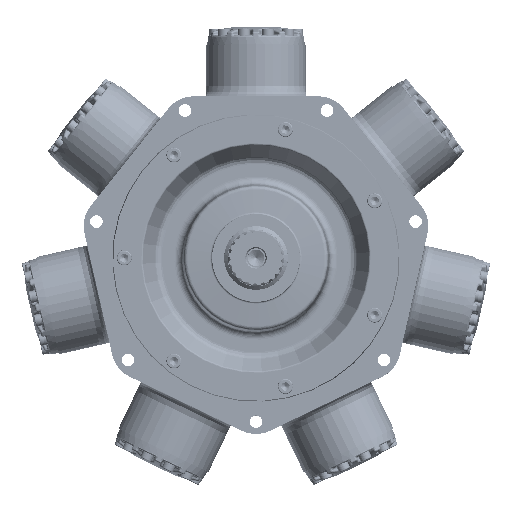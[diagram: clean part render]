
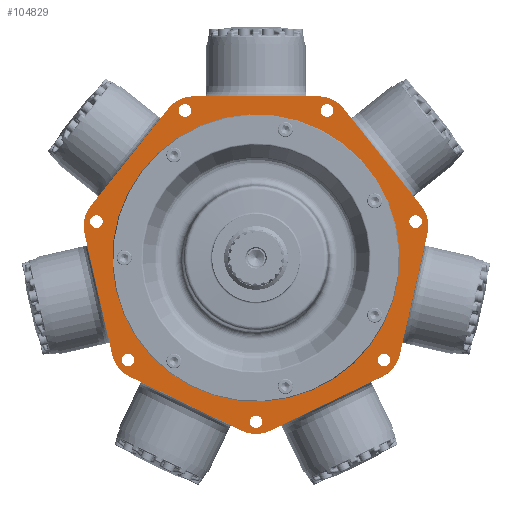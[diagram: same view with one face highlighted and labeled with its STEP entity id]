
A CAD part, top view. The second image highlights one B-rep face of the part: STEP entity #104829.
In plain terms, the highlighted planar face has unit normal (0, 0, 1).
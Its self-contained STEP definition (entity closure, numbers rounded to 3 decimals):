
#2284=FACE_BOUND('',#27616,.T.);
#2285=FACE_BOUND('',#27617,.T.);
#2286=FACE_BOUND('',#27618,.T.);
#2287=FACE_BOUND('',#27619,.T.);
#2288=FACE_BOUND('',#27620,.T.);
#2289=FACE_BOUND('',#27621,.T.);
#2290=FACE_BOUND('',#27622,.T.);
#2291=FACE_BOUND('',#27623,.T.);
#3979=PLANE('',#113158);
#9681=LINE('',#274230,#14378);
#9881=LINE('',#277726,#14578);
#9934=LINE('',#279212,#14631);
#9952=LINE('',#280041,#14649);
#9963=LINE('',#280065,#14660);
#9973=LINE('',#280125,#14670);
#9982=LINE('',#280160,#14679);
#14378=VECTOR('',#133171,10.);
#14578=VECTOR('',#133829,10.);
#14631=VECTOR('',#134124,10.);
#14649=VECTOR('',#134242,10.);
#14660=VECTOR('',#134261,10.);
#14670=VECTOR('',#134305,10.);
#14679=VECTOR('',#134326,10.);
#21075=FACE_OUTER_BOUND('',#27615,.T.);
#27615=EDGE_LOOP('',(#89969,#89970,#89971,#89972,#89973,#89974,#89975,#89976,
#89977,#89978,#89979,#89980,#89981,#89982));
#27616=EDGE_LOOP('',(#89983));
#27617=EDGE_LOOP('',(#89984));
#27618=EDGE_LOOP('',(#89985));
#27619=EDGE_LOOP('',(#89986));
#27620=EDGE_LOOP('',(#89987));
#27621=EDGE_LOOP('',(#89988));
#27622=EDGE_LOOP('',(#89989));
#27623=EDGE_LOOP('',(#89990));
#29731=CIRCLE('',#109247,228.555);
#31474=CIRCLE('',#113022,50.8);
#31489=CIRCLE('',#113044,10.);
#31491=CIRCLE('',#113047,10.);
#31493=CIRCLE('',#113050,10.);
#31495=CIRCLE('',#113053,10.);
#31497=CIRCLE('',#113056,10.);
#31499=CIRCLE('',#113059,10.);
#31501=CIRCLE('',#113062,10.);
#31506=CIRCLE('',#113072,50.8);
#31510=CIRCLE('',#113081,50.8);
#31514=CIRCLE('',#113089,50.8);
#31518=CIRCLE('',#113099,50.8);
#31525=CIRCLE('',#113115,50.8);
#31529=CIRCLE('',#113123,50.8);
#41191=VERTEX_POINT('',#213821);
#45036=VERTEX_POINT('',#274227);
#45037=VERTEX_POINT('',#274229);
#45316=VERTEX_POINT('',#277723);
#45317=VERTEX_POINT('',#277725);
#45404=VERTEX_POINT('',#279209);
#45405=VERTEX_POINT('',#279211);
#45410=VERTEX_POINT('',#279224);
#45425=VERTEX_POINT('',#279973);
#45427=VERTEX_POINT('',#279979);
#45429=VERTEX_POINT('',#279985);
#45431=VERTEX_POINT('',#279991);
#45433=VERTEX_POINT('',#279997);
#45435=VERTEX_POINT('',#280003);
#45437=VERTEX_POINT('',#280009);
#45443=VERTEX_POINT('',#280040);
#45447=VERTEX_POINT('',#280051);
#45452=VERTEX_POINT('',#280064);
#45456=VERTEX_POINT('',#280111);
#45461=VERTEX_POINT('',#280124);
#45468=VERTEX_POINT('',#280157);
#45469=VERTEX_POINT('',#280159);
#53231=EDGE_CURVE('',#41191,#41191,#29731,.T.);
#59564=EDGE_CURVE('',#45036,#45037,#9681,.T.);
#60005=EDGE_CURVE('',#45316,#45317,#9881,.T.);
#60174=EDGE_CURVE('',#45404,#45405,#9934,.T.);
#60181=EDGE_CURVE('',#45317,#45410,#31474,.T.);
#60218=EDGE_CURVE('',#45425,#45425,#31489,.T.);
#60221=EDGE_CURVE('',#45427,#45427,#31491,.T.);
#60224=EDGE_CURVE('',#45429,#45429,#31493,.T.);
#60227=EDGE_CURVE('',#45431,#45431,#31495,.T.);
#60230=EDGE_CURVE('',#45433,#45433,#31497,.T.);
#60233=EDGE_CURVE('',#45435,#45435,#31499,.T.);
#60236=EDGE_CURVE('',#45437,#45437,#31501,.T.);
#60246=EDGE_CURVE('',#45410,#45443,#9952,.T.);
#60252=EDGE_CURVE('',#45443,#45447,#31506,.T.);
#60259=EDGE_CURVE('',#45447,#45452,#9963,.T.);
#60266=EDGE_CURVE('',#45037,#45316,#31510,.T.);
#60272=EDGE_CURVE('',#45405,#45456,#31514,.T.);
#60279=EDGE_CURVE('',#45456,#45461,#9973,.T.);
#60291=EDGE_CURVE('',#45468,#45469,#9982,.T.);
#60294=EDGE_CURVE('',#45461,#45468,#31518,.T.);
#60308=EDGE_CURVE('',#45452,#45404,#31525,.T.);
#60314=EDGE_CURVE('',#45469,#45036,#31529,.T.);
#89969=ORIENTED_EDGE('',*,*,#60279,.F.);
#89970=ORIENTED_EDGE('',*,*,#60272,.F.);
#89971=ORIENTED_EDGE('',*,*,#60174,.F.);
#89972=ORIENTED_EDGE('',*,*,#60308,.F.);
#89973=ORIENTED_EDGE('',*,*,#60259,.F.);
#89974=ORIENTED_EDGE('',*,*,#60252,.F.);
#89975=ORIENTED_EDGE('',*,*,#60246,.F.);
#89976=ORIENTED_EDGE('',*,*,#60181,.F.);
#89977=ORIENTED_EDGE('',*,*,#60005,.F.);
#89978=ORIENTED_EDGE('',*,*,#60266,.F.);
#89979=ORIENTED_EDGE('',*,*,#59564,.F.);
#89980=ORIENTED_EDGE('',*,*,#60314,.F.);
#89981=ORIENTED_EDGE('',*,*,#60291,.F.);
#89982=ORIENTED_EDGE('',*,*,#60294,.F.);
#89983=ORIENTED_EDGE('',*,*,#60218,.T.);
#89984=ORIENTED_EDGE('',*,*,#60221,.T.);
#89985=ORIENTED_EDGE('',*,*,#60224,.T.);
#89986=ORIENTED_EDGE('',*,*,#60227,.T.);
#89987=ORIENTED_EDGE('',*,*,#60230,.T.);
#89988=ORIENTED_EDGE('',*,*,#60233,.T.);
#89989=ORIENTED_EDGE('',*,*,#60236,.T.);
#89990=ORIENTED_EDGE('',*,*,#53231,.F.);
#104829=ADVANCED_FACE('',(#21075,#2284,#2285,#2286,#2287,#2288,#2289,#2290,
#2291),#3979,.F.);
#109247=AXIS2_PLACEMENT_3D('',#213822,#124365,#124366);
#113022=AXIS2_PLACEMENT_3D('',#279225,#134134,#134135);
#113044=AXIS2_PLACEMENT_3D('',#279974,#134179,#134180);
#113047=AXIS2_PLACEMENT_3D('',#279980,#134186,#134187);
#113050=AXIS2_PLACEMENT_3D('',#279986,#134193,#134194);
#113053=AXIS2_PLACEMENT_3D('',#279992,#134200,#134201);
#113056=AXIS2_PLACEMENT_3D('',#279998,#134207,#134208);
#113059=AXIS2_PLACEMENT_3D('',#280004,#134214,#134215);
#113062=AXIS2_PLACEMENT_3D('',#280010,#134221,#134222);
#113072=AXIS2_PLACEMENT_3D('',#280052,#134251,#134252);
#113081=AXIS2_PLACEMENT_3D('',#280088,#134278,#134279);
#113089=AXIS2_PLACEMENT_3D('',#280112,#134295,#134296);
#113099=AXIS2_PLACEMENT_3D('',#280164,#134332,#134333);
#113115=AXIS2_PLACEMENT_3D('',#280226,#134368,#134369);
#113123=AXIS2_PLACEMENT_3D('',#280248,#134385,#134386);
#113158=AXIS2_PLACEMENT_3D('',#280289,#134458,#134459);
#124365=DIRECTION('center_axis',(0.,0.,
1.));
#124366=DIRECTION('ref_axis',(0.223,-0.975,0.));
#133171=DIRECTION('',(0.623,-0.782,0.));
#133829=DIRECTION('',(-0.223,-0.975,0.));
#134124=DIRECTION('',(-0.223,0.975,0.));
#134134=DIRECTION('center_axis',(0.,0.,-1.));
#134135=DIRECTION('ref_axis',(0.975,-0.223,0.));
#134179=DIRECTION('center_axis',(0.,0.,-1.));
#134180=DIRECTION('ref_axis',(1.,0.,0.));
#134186=DIRECTION('center_axis',(0.,0.,-1.));
#134187=DIRECTION('ref_axis',(1.,0.,0.));
#134193=DIRECTION('center_axis',(0.,0.,-1.));
#134194=DIRECTION('ref_axis',(1.,0.,0.));
#134200=DIRECTION('center_axis',(0.,0.,-1.));
#134201=DIRECTION('ref_axis',(1.,0.,0.));
#134207=DIRECTION('center_axis',(0.,0.,-1.));
#134208=DIRECTION('ref_axis',(1.,0.,0.));
#134214=DIRECTION('center_axis',(0.,0.,-1.));
#134215=DIRECTION('ref_axis',(1.,0.,0.));
#134221=DIRECTION('center_axis',(0.,0.,-1.));
#134222=DIRECTION('ref_axis',(1.,0.,0.));
#134242=DIRECTION('',(-0.901,-0.434,0.));
#134251=DIRECTION('center_axis',(0.,0.,-1.));
#134252=DIRECTION('ref_axis',(0.434,-0.901,0.));
#134261=DIRECTION('',(-0.901,0.434,0.));
#134278=DIRECTION('center_axis',(0.,0.,-1.));
#134279=DIRECTION('ref_axis',(0.782,0.623,0.));
#134295=DIRECTION('center_axis',(0.,0.,-1.));
#134296=DIRECTION('ref_axis',(-0.975,-0.223,0.));
#134305=DIRECTION('',(0.623,0.782,0.));
#134326=DIRECTION('',(1.,0.,0.));
#134332=DIRECTION('center_axis',(0.,0.,-1.));
#134333=DIRECTION('ref_axis',(-0.782,0.623,0.));
#134368=DIRECTION('center_axis',(0.,0.,-1.));
#134369=DIRECTION('ref_axis',(-0.434,-0.901,0.));
#134385=DIRECTION('center_axis',(0.,0.,-1.));
#134386=DIRECTION('ref_axis',(0.,1.,0.));
#134458=DIRECTION('center_axis',(0.,0.,-1.));
#134459=DIRECTION('ref_axis',(-1.,0.,0.));
#213821=CARTESIAN_POINT('',(222.825,50.858,-6.59));
#213822=CARTESIAN_POINT('Origin',(0.,0.,
-6.59));
#274227=CARTESIAN_POINT('',(139.102,238.048,-6.59));
#274229=CARTESIAN_POINT('',(263.033,82.644,-6.59));
#274230=CARTESIAN_POINT('',(124.931,255.818,-6.59));
#277723=CARTESIAN_POINT('',(272.842,39.666,-6.59));
#277725=CARTESIAN_POINT('',(228.612,-154.12,-6.59));
#277726=CARTESIAN_POINT('',(287.342,103.193,-6.59));
#279209=CARTESIAN_POINT('',(-228.612,-154.12,-6.59));
#279211=CARTESIAN_POINT('',(-272.842,39.666,-6.59));
#279212=CARTESIAN_POINT('',(-309.457,200.086,-6.59));
#279224=CARTESIAN_POINT('',(201.127,-188.585,-6.59));
#279225=CARTESIAN_POINT('Origin',(179.086,-142.816,-6.59));
#279973=CARTESIAN_POINT('',(-10.,-260.35,-6.59));
#279974=CARTESIAN_POINT('Origin',(0.,-260.35,-6.59));
#279979=CARTESIAN_POINT('',(243.822,57.933,-6.59));
#279980=CARTESIAN_POINT('Origin',(253.822,57.933,-6.59));
#279985=CARTESIAN_POINT('',(-263.822,57.933,-6.59));
#279986=CARTESIAN_POINT('Origin',(-253.822,57.933,-6.59));
#279991=CARTESIAN_POINT('',(193.55,-162.326,-6.59));
#279992=CARTESIAN_POINT('Origin',(203.55,-162.326,-6.59));
#279997=CARTESIAN_POINT('',(102.962,234.567,-6.59));
#279998=CARTESIAN_POINT('Origin',(112.962,234.567,-6.59));
#280003=CARTESIAN_POINT('',(-122.962,234.567,-6.59));
#280004=CARTESIAN_POINT('Origin',(-112.962,234.567,-6.59));
#280009=CARTESIAN_POINT('',(-213.55,-162.326,-6.59));
#280010=CARTESIAN_POINT('Origin',(-203.55,-162.326,-6.59));
#280040=CARTESIAN_POINT('',(22.041,-274.828,-6.59));
#280041=CARTESIAN_POINT('',(152.715,-211.899,-6.59));
#280051=CARTESIAN_POINT('',(-22.041,-274.828,-6.59));
#280052=CARTESIAN_POINT('Origin',(0.,-229.059,
-6.59));
#280064=CARTESIAN_POINT('',(-201.127,-188.585,-6.59));
#280065=CARTESIAN_POINT('',(-242.258,-168.777,-6.59));
#280088=CARTESIAN_POINT('Origin',(223.316,50.97,-6.59));
#280111=CARTESIAN_POINT('',(-263.033,82.644,-6.59));
#280112=CARTESIAN_POINT('Origin',(-223.316,50.97,-6.59));
#280124=CARTESIAN_POINT('',(-139.102,238.048,-6.59));
#280125=CARTESIAN_POINT('',(-62.966,333.52,-6.59));
#280157=CARTESIAN_POINT('',(-99.385,257.175,-6.59));
#280159=CARTESIAN_POINT('',(99.385,257.175,-6.59));
#280160=CARTESIAN_POINT('',(49.692,257.175,-6.59));
#280164=CARTESIAN_POINT('Origin',(-99.385,206.375,-6.59));
#280226=CARTESIAN_POINT('Origin',(-179.086,-142.816,-6.59));
#280248=CARTESIAN_POINT('Origin',(99.385,206.375,-6.59));
#280289=CARTESIAN_POINT('Origin',(0.,439.494,-6.59));
